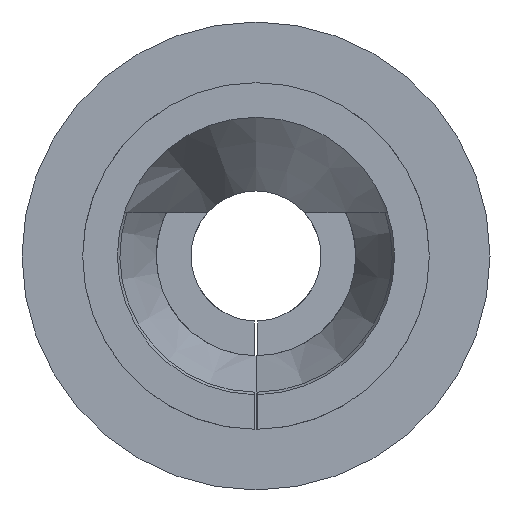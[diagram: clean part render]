
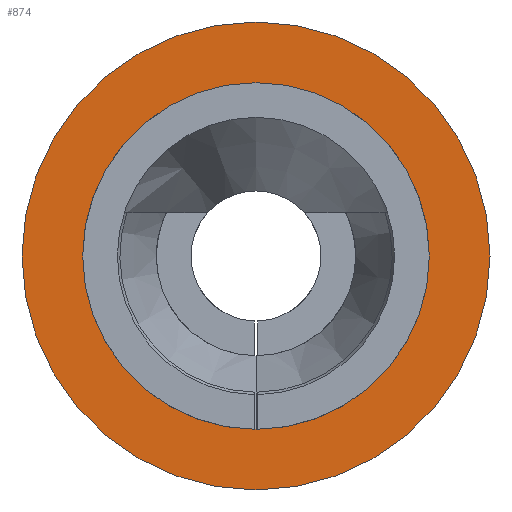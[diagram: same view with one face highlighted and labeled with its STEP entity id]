
A CAD part, front view. The second image highlights one B-rep face of the part: STEP entity #874.
In plain terms, the highlighted planar face has unit normal (0, -1, 0).
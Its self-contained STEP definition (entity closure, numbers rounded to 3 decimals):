
#70 = DIRECTION ( 'NONE',  ( 0., -1., 0. ) ) ;
#129 = ORIENTED_EDGE ( 'NONE', *, *, #187, .F. ) ;
#144 = DIRECTION ( 'NONE',  ( 0., -1., 0. ) ) ;
#147 = FACE_OUTER_BOUND ( 'NONE', #690, .T. ) ;
#187 = EDGE_CURVE ( 'NONE', #265, #648, #838, .T. ) ;
#206 = CARTESIAN_POINT ( 'NONE',  ( 0., 0., 0. ) ) ;
#255 = ORIENTED_EDGE ( 'NONE', *, *, #479, .T. ) ;
#265 = VERTEX_POINT ( 'NONE', #480 ) ;
#277 = DIRECTION ( 'NONE',  ( 0., 0., -1. ) ) ;
#290 = DIRECTION ( 'NONE',  ( 0., -1., 0. ) ) ;
#319 = CARTESIAN_POINT ( 'NONE',  ( 0., 0., 2.7 ) ) ;
#345 = CARTESIAN_POINT ( 'NONE',  ( 0., 0., -2.7 ) ) ;
#346 = FACE_BOUND ( 'NONE', #1169, .T. ) ;
#360 = DIRECTION ( 'NONE',  ( 0., -1., 0. ) ) ;
#365 = AXIS2_PLACEMENT_3D ( 'NONE', #206, #290, #899 ) ;
#390 = CARTESIAN_POINT ( 'NONE',  ( 0., 0., 0. ) ) ;
#394 = VERTEX_POINT ( 'NONE', #345 ) ;
#399 = CIRCLE ( 'NONE', #365, 2. ) ;
#479 = EDGE_CURVE ( 'NONE', #652, #394, #1237, .T. ) ;
#480 = CARTESIAN_POINT ( 'NONE',  ( 0., 0., 2. ) ) ;
#555 = ORIENTED_EDGE ( 'NONE', *, *, #1066, .T. ) ;
#592 = CIRCLE ( 'NONE', #602, 2.7 ) ;
#602 = AXIS2_PLACEMENT_3D ( 'NONE', #1036, #360, #1235 ) ;
#648 = VERTEX_POINT ( 'NONE', #1205 ) ;
#652 = VERTEX_POINT ( 'NONE', #319 ) ;
#654 = CARTESIAN_POINT ( 'NONE',  ( 0., 0., 0. ) ) ;
#690 = EDGE_LOOP ( 'NONE', ( #555, #255 ) ) ;
#691 = PLANE ( 'NONE',  #865 ) ;
#742 = DIRECTION ( 'NONE',  ( 0., 0., -1. ) ) ;
#791 = EDGE_CURVE ( 'NONE', #648, #265, #399, .T. ) ;
#796 = CARTESIAN_POINT ( 'NONE',  ( 2., 0., 0. ) ) ;
#838 = CIRCLE ( 'NONE', #994, 2. ) ;
#865 = AXIS2_PLACEMENT_3D ( 'NONE', #796, #144, #900 ) ;
#874 = ADVANCED_FACE ( 'NONE', ( #147, #346 ), #691, .T. ) ;
#899 = DIRECTION ( 'NONE',  ( 0., 0., -1. ) ) ;
#900 = DIRECTION ( 'NONE',  ( 0., 0., -1. ) ) ;
#991 = ORIENTED_EDGE ( 'NONE', *, *, #791, .F. ) ;
#994 = AXIS2_PLACEMENT_3D ( 'NONE', #654, #70, #742 ) ;
#1036 = CARTESIAN_POINT ( 'NONE',  ( 0., 0., 0. ) ) ;
#1046 = DIRECTION ( 'NONE',  ( 0., -1., 0. ) ) ;
#1066 = EDGE_CURVE ( 'NONE', #394, #652, #592, .T. ) ;
#1169 = EDGE_LOOP ( 'NONE', ( #991, #129 ) ) ;
#1205 = CARTESIAN_POINT ( 'NONE',  ( 0., 0., -2. ) ) ;
#1235 = DIRECTION ( 'NONE',  ( 0., 0., -1. ) ) ;
#1237 = CIRCLE ( 'NONE', #1241, 2.7 ) ;
#1241 = AXIS2_PLACEMENT_3D ( 'NONE', #390, #1046, #277 ) ;
